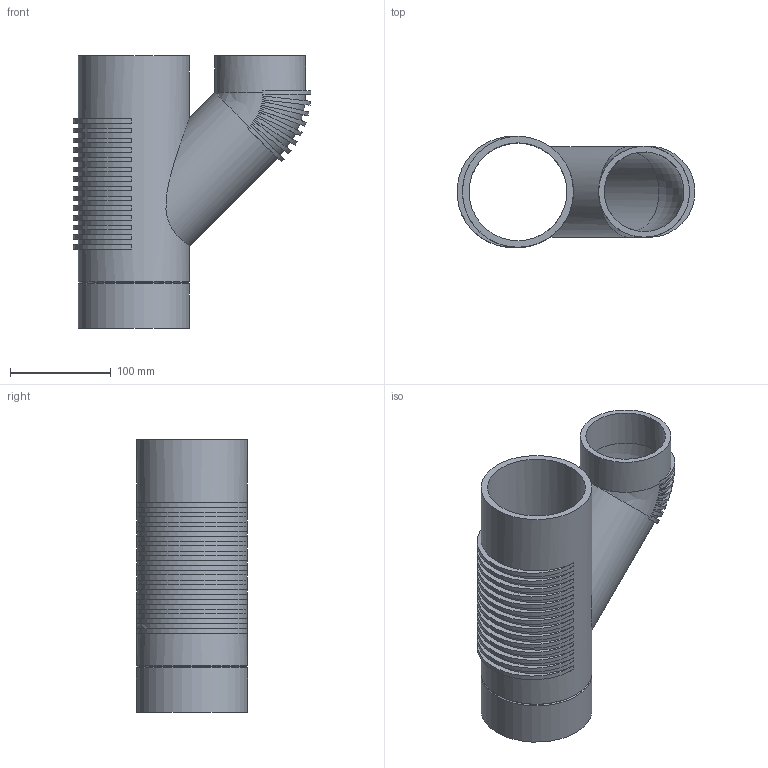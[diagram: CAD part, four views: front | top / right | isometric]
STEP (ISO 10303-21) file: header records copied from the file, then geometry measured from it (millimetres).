
FILE_DESCRIPTION(/* description */ (''),/* implementation_level */ '2;1');
FILE_NAME(/* name */ 'Z:\Geberit\Export\NewStep\310081.stp',/* time_stamp */ '2014-04-01T20:07:30+02:00',/* author */ ('P. Burger'),/* organization */ (''),/* preprocessor_version */ 'ST-DEVELOPER v15.2',/* originating_system */ 'Autodesk Inventor 2014',/* authorisation */ '');
FILE_SCHEMA (('AUTOMOTIVE_DESIGN { 1 0 10303 214 3 1 1 }'));
Length unit declared in the file: millimetre
Products named in the file (1): 310081
Bounding box: 235.63 x 110 x 270 mm (x, y, z)
Volume: 815202.4 mm3; surface area: 284148.6 mm2
Topology: 1 solids, 1 shells, 94 faces, 267 edges, 173 vertices
Faces by surface type: plane 47, cylinder 43, cone 2, bspline 1, torus 1
Full cylindrical faces by diameter (mm): 79 x2, 90 x2, 97 x1, 110 x2
Entity records: 3291 total; most frequent: CARTESIAN_POINT 1042, DIRECTION 466, ORIENTED_EDGE 412, AXIS2_PLACEMENT_3D 210, EDGE_CURVE 206, VERTEX_POINT 139, EDGE_LOOP 129, CIRCLE 116
